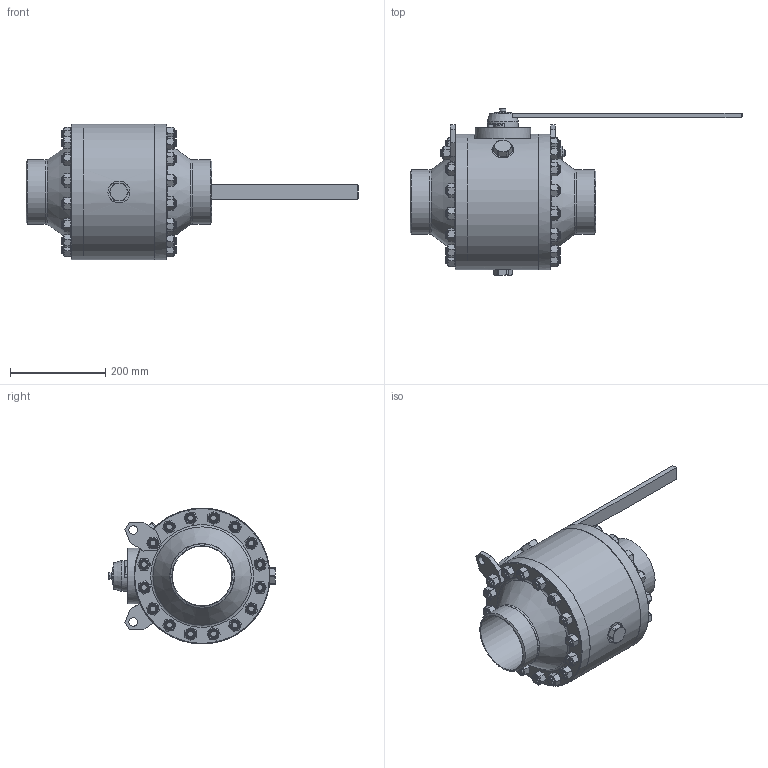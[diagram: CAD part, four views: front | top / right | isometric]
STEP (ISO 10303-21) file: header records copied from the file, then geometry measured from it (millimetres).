
FILE_DESCRIPTION(('STEP AP203'), '1');
FILE_NAME('ﾇﾀﾐﾄﾏ 125.016.40-ﾕﾕ.ﾐ.stp', '2013-12-10T08:33:13', ($), ($), 'ASCON STEP Converter 1.3', 'Kompas 3D', '');
FILE_SCHEMA(('CONFIG_CONTROL_DESIGN','SUPPORT_RESOURCE_SCHEMA'));
Length unit declared in the file: millimetre
Products named in the file (1): 10
Bounding box: 697 x 349.5 x 285 mm (x, y, z)
Surface area: 846339.1 mm2 (no closed solid volume)
Topology: 0 solids, 46 shells, 1096 faces, 2386 edges, 1482 vertices
Faces by surface type: plane 613, cone 258, cylinder 223, torus 2
Full cylindrical faces by diameter (mm): 8 x3, 8.5 x1, 10 x8, 10.106 x8, 12 x8, 13 x9, 13.835 x2, 16 x64, 18 x42, 19 x8, 23.752 x2, 27 x2, 31 x1, 34 x1, 36 x1, 38 x1, 38.2 x1, 46 x2, 48 x1, 48.5 x1, 65 x1, 117 x1, 125 x2, 135 x2, 136 x2, 210 x1, 285 x3
Entity records: 44988 total; most frequent: CARTESIAN_POINT 21296, DIRECTION 4898, ORIENTED_EDGE 4756, EDGE_CURVE 2378, AXIS2_PLACEMENT_3D 1937, VERTEX_POINT 1482, EDGE_LOOP 1298, ADVANCED_FACE 1096
